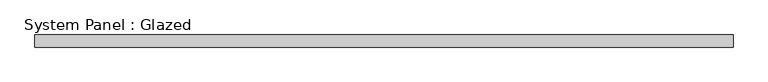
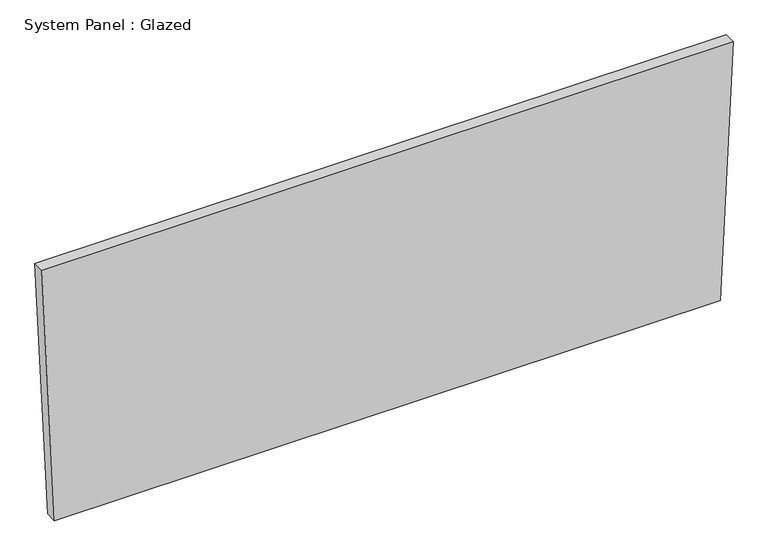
"""IFC4 building model written with IfcOpenShell, lengths in millimetres: plate geometry, System Panel : Glazed."""

from ifc_helpers import new_model, si_unit, frame, origin, place, context, project, spatial, polyline, outline, extrude, source, transform, mapped, element, save


def system_panel_glazed_9ff9c314(model_context):
    return source(origin(), model_context, "Body", "SweptSolid", [
        extrude(outline(polyline([(0.0, -705.6650434), (0.0, 705.6650434), (570.8339015, 732.3721986), (570.8339015, -732.3721986), (0.0, -705.6650434)])), frame((0.0, -44.45, 0.0), z_axis=(0.0, 1.0, 0.0), x_axis=(0.0, 0.0, 1.0)), (0.0, 0.0, 1.0), 25.4),
    ])


if __name__ == "__main__":
    model = new_model("IFC4")
    model_context = context("Model", 3, world=origin())
    ifc_project = project(units=[si_unit("LENGTHUNIT", "METRE", prefix="MILLI")], contexts=[model_context])
    site = spatial("IfcSite", under=ifc_project)
    building = spatial("IfcBuilding", under=site)
    placement = place(None, origin())
    system_panel_glazed_shape = system_panel_glazed_9ff9c314(model_context)
    element("IfcPlate", 1, ObjectType="System Panel : Glazed", at=placement, inside=building, context=model_context, shape_type="MappedRepresentation", body=[
        mapped(system_panel_glazed_shape, transform((0.0, 0.0, 0.0), x_axis=(1.0, 0.0, 0.0), y_axis=(0.0, 1.0, 0.0), z_axis=(0.0, 0.0, 1.0))),
    ])
    save(model, "model.ifc")
